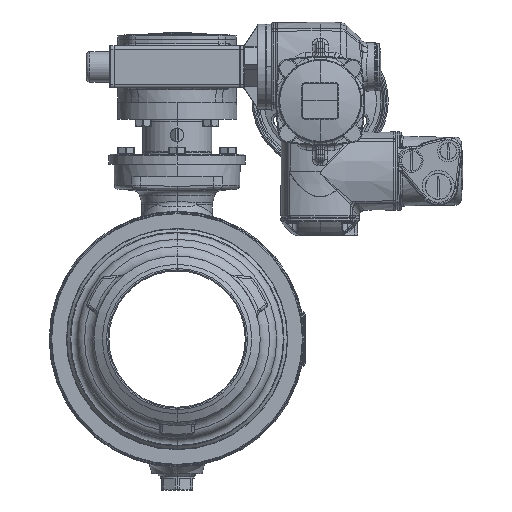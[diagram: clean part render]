
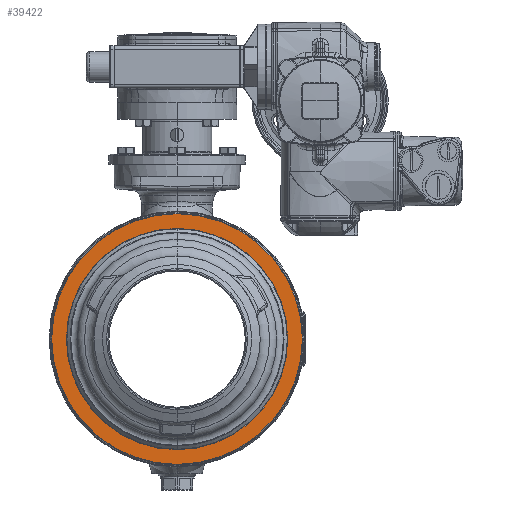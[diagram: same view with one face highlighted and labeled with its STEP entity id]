
A CAD part, left-side view. The second image highlights one B-rep face of the part: STEP entity #39422.
In plain terms, the highlighted planar face has unit normal (-1, 0, 0).
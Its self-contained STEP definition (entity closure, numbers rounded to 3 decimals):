
#5431=CARTESIAN_POINT('',(-120.5,0.,0.));
#5432=DIRECTION('',(1.,0.,0.));
#5433=DIRECTION('',(0.,0.,-1.));
#5434=AXIS2_PLACEMENT_3D('',#5431,#5432,#5433);
#5436=CARTESIAN_POINT('',(-120.5,0.,0.));
#5437=DIRECTION('',(1.,0.,0.));
#5438=DIRECTION('',(0.,0.,1.));
#5439=AXIS2_PLACEMENT_3D('',#5436,#5437,#5438);
#5441=CARTESIAN_POINT('',(-120.5,0.,0.));
#5442=DIRECTION('',(-1.,0.,0.));
#5443=DIRECTION('',(0.,0.,-1.));
#5444=AXIS2_PLACEMENT_3D('',#5441,#5442,#5443);
#5446=CARTESIAN_POINT('',(-120.5,0.,0.));
#5447=DIRECTION('',(-1.,0.,0.));
#5448=DIRECTION('',(0.,0.,1.));
#5449=AXIS2_PLACEMENT_3D('',#5446,#5447,#5448);
#35467=CARTESIAN_POINT('',(-120.5,0.,-184.));
#35468=CARTESIAN_POINT('',(-120.5,0.,184.));
#35469=VERTEX_POINT('',#35467);
#35470=VERTEX_POINT('',#35468);
#35471=CARTESIAN_POINT('',(-120.5,0.,-162.331));
#35472=CARTESIAN_POINT('',(-120.5,0.,162.331));
#35473=VERTEX_POINT('',#35471);
#35474=VERTEX_POINT('',#35472);
#39407=CARTESIAN_POINT('',(-120.5,0.,0.));
#39408=DIRECTION('',(-1.,0.,0.));
#39409=DIRECTION('',(0.,0.,1.));
#39410=AXIS2_PLACEMENT_3D('',#39407,#39408,#39409);
#39411=PLANE('',#39410);
#39412=ORIENTED_EDGE('',*,*,#39387,.T.);
#39413=ORIENTED_EDGE('',*,*,#39401,.T.);
#39414=EDGE_LOOP('',(#39412,#39413));
#39415=FACE_OUTER_BOUND('',#39414,.F.);
#39417=ORIENTED_EDGE('',*,*,#39416,.T.);
#39419=ORIENTED_EDGE('',*,*,#39418,.T.);
#39420=EDGE_LOOP('',(#39417,#39419));
#39421=FACE_BOUND('',#39420,.F.);
#39422=ADVANCED_FACE('',(#39415,#39421),#39411,.T.);
#5435=CIRCLE('',#5434,184.);
#5440=CIRCLE('',#5439,184.);
#5445=CIRCLE('',#5444,162.331);
#5450=CIRCLE('',#5449,162.331);
#39387=EDGE_CURVE('',#35469,#35470,#5435,.T.);
#39401=EDGE_CURVE('',#35470,#35469,#5440,.T.);
#39416=EDGE_CURVE('',#35473,#35474,#5445,.T.);
#39418=EDGE_CURVE('',#35474,#35473,#5450,.T.);
